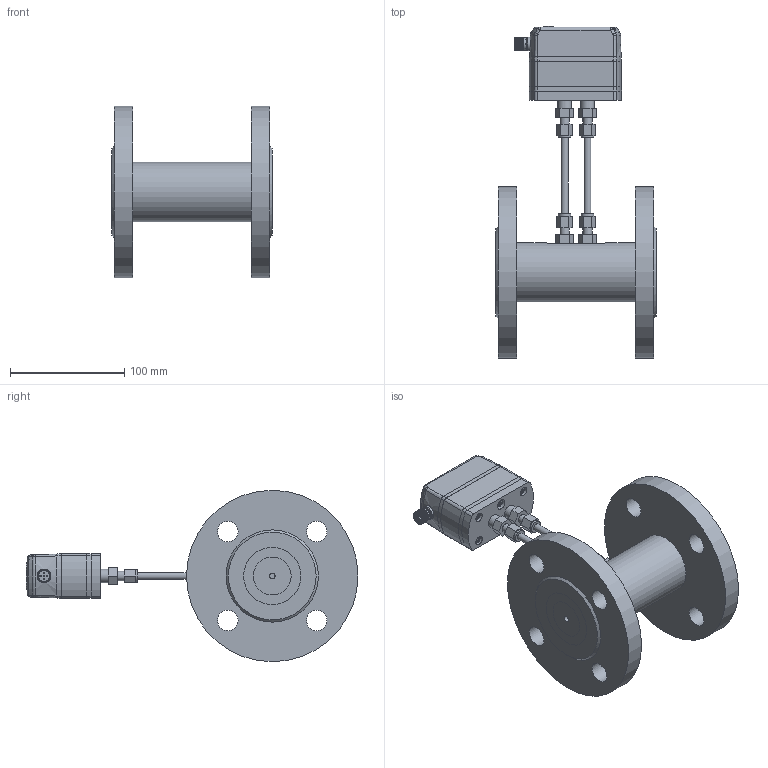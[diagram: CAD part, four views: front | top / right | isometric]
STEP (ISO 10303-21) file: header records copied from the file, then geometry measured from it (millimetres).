
FILE_DESCRIPTION( (''), '2;1');
FILE_NAME( 'QEKH_DN40_flange_capillary.step', '2025-04-29T16:07:24+08:00', (''), (''), '', '', '');
FILE_SCHEMA (('AUTOMOTIVE_DESIGN { 1 0 10303 214 3 1 1 1 }'));
Length unit declared in the file: millimetre
Products named in the file (1): QEKH DN40_flange_capillary
Bounding box: 140 x 290.4 x 150 mm (x, y, z)
Volume: 1024184.7 mm3; surface area: 201693.7 mm2
Topology: 32 solids, 35 shells, 1606 faces, 3947 edges, 2534 vertices
Faces by surface type: plane 810, cylinder 304, extrusion 239, cone 144, torus 52, bspline 48, sphere 9
Full cylindrical faces by diameter (mm): 1 x10, 2.05 x4, 2.6 x4, 2.7 x5, 2.874 x4, 3 x4, 3.1 x1, 3.3 x8, 3.5 x7, 3.838 x6, 4.2 x2, 4.5 x12, 5 x3, 5.5 x10, 6 x6, 7 x6, 8 x8, 9 x2, 9.8 x2, 10.8 x1, 11 x4, 11.5 x2, 11.992 x2, 12 x12, 14 x2, 14.5 x2, 17 x2, 18 x8, 19.1 x6, 25 x1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
Entity records: 52719 total; most frequent: CARTESIAN_POINT 16649, ORIENTED_EDGE 7204, DIRECTION 6625, EDGE_CURVE 3602, VERTEX_POINT 2446, VECTOR 2219, AXIS2_PLACEMENT_3D 2203, EDGE_LOOP 2052
